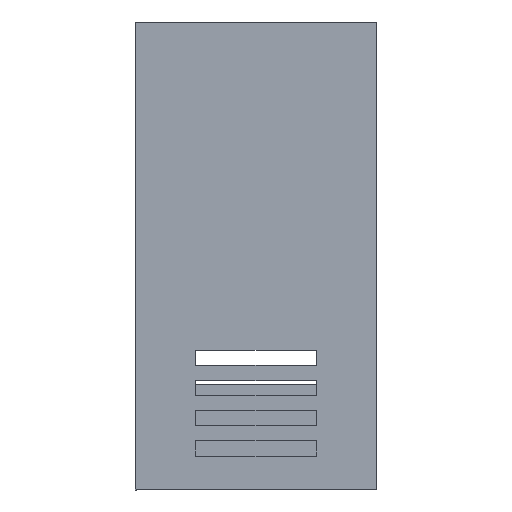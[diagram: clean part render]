
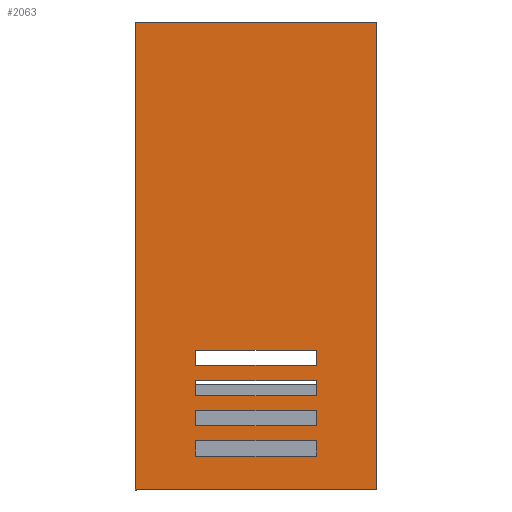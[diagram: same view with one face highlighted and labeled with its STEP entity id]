
A CAD part, left-side view. The second image highlights one B-rep face of the part: STEP entity #2063.
In plain terms, the highlighted planar face has unit normal (-1, 0, 0).
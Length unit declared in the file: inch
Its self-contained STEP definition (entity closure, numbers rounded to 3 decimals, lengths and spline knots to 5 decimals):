
#787=CARTESIAN_POINT('',(-27.45374,18.20045,9.25329));
#788=VERTEX_POINT('',#787);
#795=CARTESIAN_POINT('',(-27.45374,26.20045,9.25329));
#796=VERTEX_POINT('',#795);
#797=CARTESIAN_POINT('',(-27.45374,26.20045,9.25329));
#798=DIRECTION('',(0.0,-1.0,0.0));
#799=VECTOR('',#798,8.0);
#800=LINE('',#797,#799);
#801=EDGE_CURVE('',#796,#788,#800,.T.);
#1443=CARTESIAN_POINT('',(-27.45374,26.20045,24.75329));
#1444=VERTEX_POINT('',#1443);
#1445=CARTESIAN_POINT('',(-27.45374,26.20045,24.75329));
#1446=DIRECTION('',(0.0,0.0,-1.0));
#1447=VECTOR('',#1446,15.5);
#1448=LINE('',#1445,#1447);
#1449=EDGE_CURVE('',#1444,#796,#1448,.T.);
#1487=CARTESIAN_POINT('',(-27.45374,24.20045,11.87829));
#1488=VERTEX_POINT('',#1487);
#1495=CARTESIAN_POINT('',(-27.45374,24.20045,11.37829));
#1496=VERTEX_POINT('',#1495);
#1497=CARTESIAN_POINT('',(-27.45374,24.20045,11.37829));
#1498=DIRECTION('',(0.0,0.0,1.0));
#1499=VECTOR('',#1498,0.5);
#1500=LINE('',#1497,#1499);
#1501=EDGE_CURVE('',#1496,#1488,#1500,.T.);
#1526=CARTESIAN_POINT('',(-27.45374,20.20045,11.37829));
#1527=VERTEX_POINT('',#1526);
#1528=CARTESIAN_POINT('',(-27.45374,20.20045,11.37829));
#1529=DIRECTION('',(0.0,1.0,0.0));
#1530=VECTOR('',#1529,4.);
#1531=LINE('',#1528,#1530);
#1532=EDGE_CURVE('',#1527,#1496,#1531,.T.);
#1557=CARTESIAN_POINT('',(-27.45374,20.20045,11.87829));
#1558=VERTEX_POINT('',#1557);
#1559=CARTESIAN_POINT('',(-27.45374,20.20045,11.87829));
#1560=DIRECTION('',(0.0,0.0,-1.0));
#1561=VECTOR('',#1560,0.5);
#1562=LINE('',#1559,#1561);
#1563=EDGE_CURVE('',#1558,#1527,#1562,.T.);
#1586=CARTESIAN_POINT('',(-27.45374,24.20045,11.87829));
#1587=DIRECTION('',(0.0,-1.0,0.0));
#1588=VECTOR('',#1587,4.0);
#1589=LINE('',#1586,#1588);
#1590=EDGE_CURVE('',#1488,#1558,#1589,.T.);
#1611=CARTESIAN_POINT('',(-27.45374,24.20045,12.87829));
#1612=VERTEX_POINT('',#1611);
#1619=CARTESIAN_POINT('',(-27.45374,24.20045,12.37829));
#1620=VERTEX_POINT('',#1619);
#1621=CARTESIAN_POINT('',(-27.45374,24.20045,12.37829));
#1622=DIRECTION('',(0.0,0.0,1.0));
#1623=VECTOR('',#1622,0.5);
#1624=LINE('',#1621,#1623);
#1625=EDGE_CURVE('',#1620,#1612,#1624,.T.);
#1650=CARTESIAN_POINT('',(-27.45374,20.20045,12.37829));
#1651=VERTEX_POINT('',#1650);
#1652=CARTESIAN_POINT('',(-27.45374,20.20045,12.37829));
#1653=DIRECTION('',(0.0,1.0,0.0));
#1654=VECTOR('',#1653,4.);
#1655=LINE('',#1652,#1654);
#1656=EDGE_CURVE('',#1651,#1620,#1655,.T.);
#1681=CARTESIAN_POINT('',(-27.45374,20.20045,12.87829));
#1682=VERTEX_POINT('',#1681);
#1683=CARTESIAN_POINT('',(-27.45374,20.20045,12.87829));
#1684=DIRECTION('',(0.0,0.0,-1.0));
#1685=VECTOR('',#1684,0.5);
#1686=LINE('',#1683,#1685);
#1687=EDGE_CURVE('',#1682,#1651,#1686,.T.);
#1710=CARTESIAN_POINT('',(-27.45374,24.20045,12.87829));
#1711=DIRECTION('',(0.0,-1.0,0.0));
#1712=VECTOR('',#1711,4.0);
#1713=LINE('',#1710,#1712);
#1714=EDGE_CURVE('',#1612,#1682,#1713,.T.);
#1735=CARTESIAN_POINT('',(-27.45374,24.20045,10.37829));
#1736=VERTEX_POINT('',#1735);
#1743=CARTESIAN_POINT('',(-27.45374,20.20045,10.37829));
#1744=VERTEX_POINT('',#1743);
#1745=CARTESIAN_POINT('',(-27.45374,20.20045,10.37829));
#1746=DIRECTION('',(0.0,1.0,0.0));
#1747=VECTOR('',#1746,4.);
#1748=LINE('',#1745,#1747);
#1749=EDGE_CURVE('',#1744,#1736,#1748,.T.);
#1774=CARTESIAN_POINT('',(-27.45374,20.20045,10.87829));
#1775=VERTEX_POINT('',#1774);
#1776=CARTESIAN_POINT('',(-27.45374,20.20045,10.87829));
#1777=DIRECTION('',(0.0,0.0,-1.0));
#1778=VECTOR('',#1777,0.5);
#1779=LINE('',#1776,#1778);
#1780=EDGE_CURVE('',#1775,#1744,#1779,.T.);
#1805=CARTESIAN_POINT('',(-27.45374,24.20045,10.87829));
#1806=VERTEX_POINT('',#1805);
#1807=CARTESIAN_POINT('',(-27.45374,24.20045,10.87829));
#1808=DIRECTION('',(0.0,-1.0,0.0));
#1809=VECTOR('',#1808,4.0);
#1810=LINE('',#1807,#1809);
#1811=EDGE_CURVE('',#1806,#1775,#1810,.T.);
#1834=CARTESIAN_POINT('',(-27.45374,24.20045,10.37829));
#1835=DIRECTION('',(0.0,0.0,1.0));
#1836=VECTOR('',#1835,0.5);
#1837=LINE('',#1834,#1836);
#1838=EDGE_CURVE('',#1736,#1806,#1837,.T.);
#1859=CARTESIAN_POINT('',(-27.45374,24.20045,13.87829));
#1860=VERTEX_POINT('',#1859);
#1867=CARTESIAN_POINT('',(-27.45374,24.20045,13.37829));
#1868=VERTEX_POINT('',#1867);
#1869=CARTESIAN_POINT('',(-27.45374,24.20045,13.37829));
#1870=DIRECTION('',(0.0,0.0,1.0));
#1871=VECTOR('',#1870,0.5);
#1872=LINE('',#1869,#1871);
#1873=EDGE_CURVE('',#1868,#1860,#1872,.T.);
#1898=CARTESIAN_POINT('',(-27.45374,20.20045,13.37829));
#1899=VERTEX_POINT('',#1898);
#1900=CARTESIAN_POINT('',(-27.45374,20.20045,13.37829));
#1901=DIRECTION('',(0.0,1.0,0.0));
#1902=VECTOR('',#1901,4.0);
#1903=LINE('',#1900,#1902);
#1904=EDGE_CURVE('',#1899,#1868,#1903,.T.);
#1929=CARTESIAN_POINT('',(-27.45374,20.20045,13.87829));
#1930=VERTEX_POINT('',#1929);
#1931=CARTESIAN_POINT('',(-27.45374,20.20045,13.87829));
#1932=DIRECTION('',(0.0,0.0,-1.0));
#1933=VECTOR('',#1932,0.5);
#1934=LINE('',#1931,#1933);
#1935=EDGE_CURVE('',#1930,#1899,#1934,.T.);
#1958=CARTESIAN_POINT('',(-27.45374,24.20045,13.87829));
#1959=DIRECTION('',(0.0,-1.0,0.0));
#1960=VECTOR('',#1959,4.0);
#1961=LINE('',#1958,#1960);
#1962=EDGE_CURVE('',#1860,#1930,#1961,.T.);
#2016=CARTESIAN_POINT('',(-27.45374,22.20045,17.00329));
#2017=DIRECTION('',(1.0,0.0,0.0));
#2018=DIRECTION('',(0.0,0.0,-1.0));
#2019=AXIS2_PLACEMENT_3D('',#2016,#2017,#2018);
#2020=PLANE('',#2019);
#2021=CARTESIAN_POINT('',(-27.45374,18.20045,24.75329));
#2022=VERTEX_POINT('',#2021);
#2023=CARTESIAN_POINT('',(-27.45374,18.20045,9.25329));
#2024=DIRECTION('',(0.0,0.0,1.0));
#2025=VECTOR('',#2024,15.5);
#2026=LINE('',#2023,#2025);
#2027=EDGE_CURVE('',#788,#2022,#2026,.T.);
#2028=ORIENTED_EDGE('',*,*,#2027,.T.);
#2029=CARTESIAN_POINT('',(-27.45374,18.20045,24.75329));
#2030=DIRECTION('',(0.0,1.0,0.0));
#2031=VECTOR('',#2030,8.0);
#2032=LINE('',#2029,#2031);
#2033=EDGE_CURVE('',#2022,#1444,#2032,.T.);
#2034=ORIENTED_EDGE('',*,*,#2033,.T.);
#2035=ORIENTED_EDGE('',*,*,#1449,.T.);
#2036=ORIENTED_EDGE('',*,*,#801,.T.);
#2037=EDGE_LOOP('',(#2028,#2034,#2035,#2036));
#2038=FACE_OUTER_BOUND('',#2037,.T.);
#2039=ORIENTED_EDGE('',*,*,#1935,.T.);
#2040=ORIENTED_EDGE('',*,*,#1904,.T.);
#2041=ORIENTED_EDGE('',*,*,#1873,.T.);
#2042=ORIENTED_EDGE('',*,*,#1962,.T.);
#2043=EDGE_LOOP('',(#2039,#2040,#2041,#2042));
#2044=FACE_BOUND('',#2043,.T.);
#2045=ORIENTED_EDGE('',*,*,#1811,.T.);
#2046=ORIENTED_EDGE('',*,*,#1780,.T.);
#2047=ORIENTED_EDGE('',*,*,#1749,.T.);
#2048=ORIENTED_EDGE('',*,*,#1838,.T.);
#2049=EDGE_LOOP('',(#2045,#2046,#2047,#2048));
#2050=FACE_BOUND('',#2049,.T.);
#2051=ORIENTED_EDGE('',*,*,#1687,.T.);
#2052=ORIENTED_EDGE('',*,*,#1656,.T.);
#2053=ORIENTED_EDGE('',*,*,#1625,.T.);
#2054=ORIENTED_EDGE('',*,*,#1714,.T.);
#2055=EDGE_LOOP('',(#2051,#2052,#2053,#2054));
#2056=FACE_BOUND('',#2055,.T.);
#2057=ORIENTED_EDGE('',*,*,#1563,.T.);
#2058=ORIENTED_EDGE('',*,*,#1532,.T.);
#2059=ORIENTED_EDGE('',*,*,#1501,.T.);
#2060=ORIENTED_EDGE('',*,*,#1590,.T.);
#2061=EDGE_LOOP('',(#2057,#2058,#2059,#2060));
#2062=FACE_BOUND('',#2061,.T.);
#2063=ADVANCED_FACE('',(#2038,#2044,#2050,#2056,#2062),#2020,.F.);
